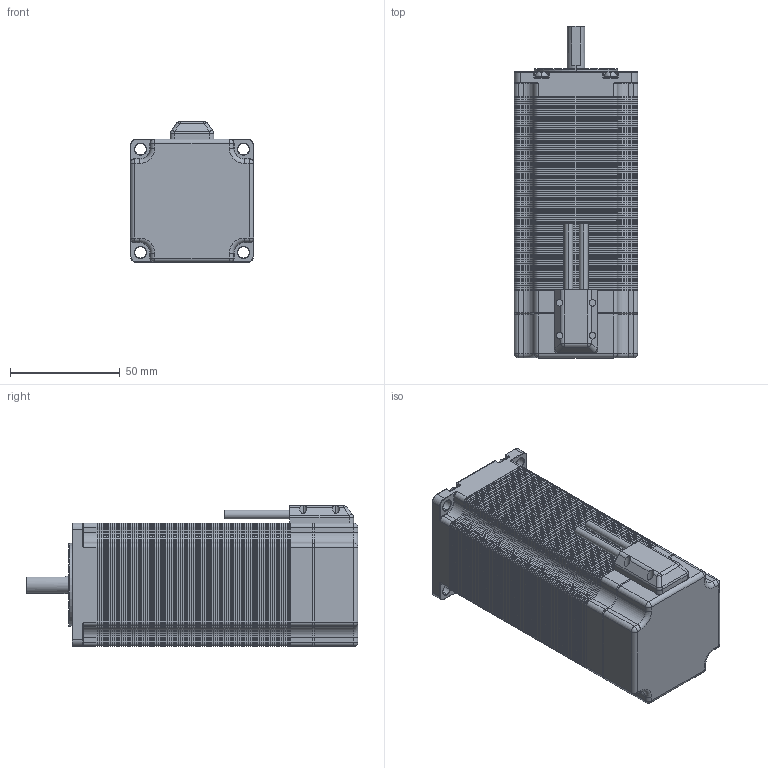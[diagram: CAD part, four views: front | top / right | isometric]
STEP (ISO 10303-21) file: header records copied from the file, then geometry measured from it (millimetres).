
FILE_DESCRIPTION (( 'STEP AP214' ), '1' );
FILE_NAME ('Nema 23 Stepper Motor length_112_mm_8mm_ENC.STEP', '2020-11-11T15:58:23', ( 'Moofasta' ), ( '' ), 'SwSTEP 2.0', 'SolidWorks 2020', '' );
FILE_SCHEMA (( 'AUTOMOTIVE_DESIGN' ));
Length unit declared in the file: millimetre
Products named in the file (1): Nema 23 Stepper Motor length_112_mm_8mm_ENC
Bounding box: 56.3 x 151.5 x 64.3 mm (x, y, z)
Volume: 379266.9 mm3; surface area: 543224.7 mm2
Topology: 96 solids, 97 shells, 7017 faces, 15977 edges, 9137 vertices
Faces by surface type: plane 3525, cone 2140, cylinder 1230, torus 94, sphere 20, bspline 8
Entity records: 266405 total; most frequent: DIRECTION 34621, CARTESIAN_POINT 32680, ORIENTED_EDGE 31902, EDGE_CURVE 15951, AXIS2_PLACEMENT_3D 11750, LINE 11121, VECTOR 11121, VERTEX_POINT 9137
